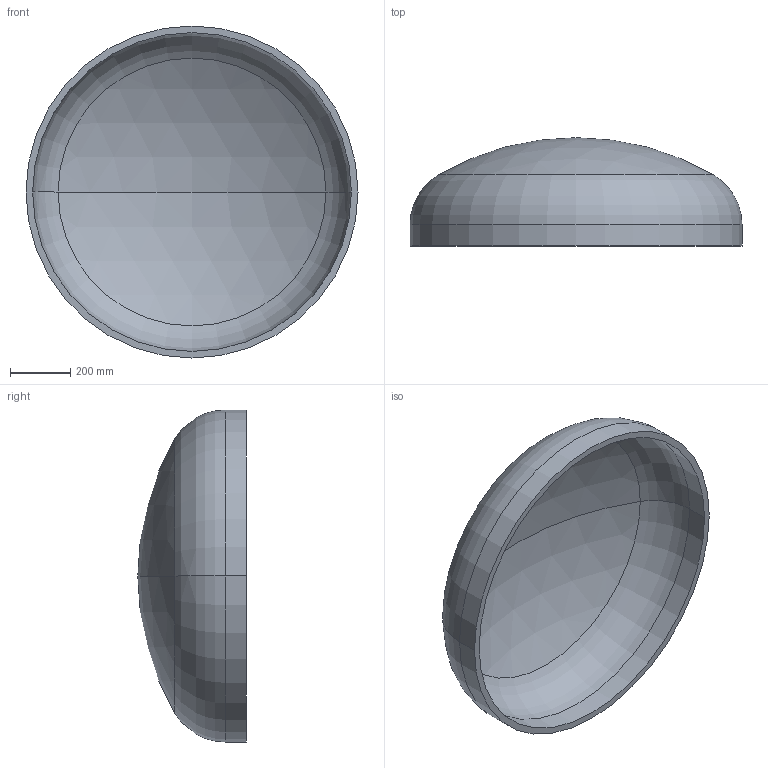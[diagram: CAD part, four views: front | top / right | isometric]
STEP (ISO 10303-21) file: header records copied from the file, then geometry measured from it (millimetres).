
FILE_DESCRIPTION (( 'STEP AP203' ), '1' );
FILE_NAME ('DIN 28013 Korbbogenform_-_Boden DIN 28013 - 1100 x 70 - I - s=22.step', '2016-07-01T09:03:30', ( '' ), ( '' ), 'SwSTEP 2.0', 'SolidWorks 2013', '' );
FILE_SCHEMA (( 'CONFIG_CONTROL_DESIGN' ));
Length unit declared in the file: millimetre
Products named in the file (1): DIN 28013 Korbbogenform_-_Boden DIN 28013 - 1100 x 70 - I - s=22
Bounding box: 1100 x 358.86 x 1100 mm (x, y, z)
Volume: 33439090.8 mm3; surface area: 3115436.1 mm2
Topology: 1 solids, 1 shells, 13 faces, 24 edges, 14 vertices
Faces by surface type: torus 4, cylinder 4, sphere 4, plane 1
Entity records: 407 total; most frequent: DIRECTION 72, CARTESIAN_POINT 52, ORIENTED_EDGE 48, AXIS2_PLACEMENT_3D 34, EDGE_CURVE 24, CIRCLE 20, VERTEX_POINT 14, EDGE_LOOP 14
